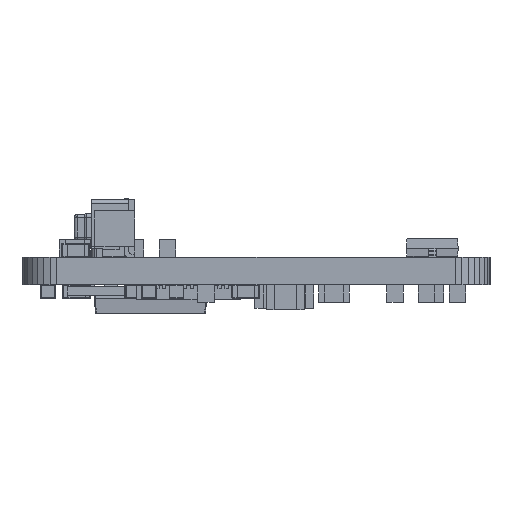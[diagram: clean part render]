
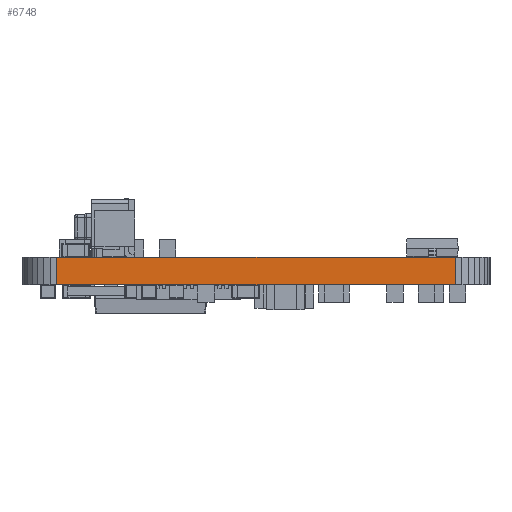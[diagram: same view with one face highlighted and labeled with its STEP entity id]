
A CAD part, left-side view. The second image highlights one B-rep face of the part: STEP entity #6748.
In plain terms, the highlighted planar face has unit normal (-1, 0, 0).
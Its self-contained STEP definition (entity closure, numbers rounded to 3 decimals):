
#223 = PLANE('',#224);
#224 = AXIS2_PLACEMENT_3D('',#225,#226,#227);
#225 = CARTESIAN_POINT('',(24.79,-3.19,1.6));
#226 = DIRECTION('',(0.,0.,-1.));
#227 = DIRECTION('',(-1.,0.,0.));
#277 = PLANE('',#278);
#278 = AXIS2_PLACEMENT_3D('',#279,#280,#281);
#279 = CARTESIAN_POINT('',(24.79,-3.19,0.));
#280 = DIRECTION('',(0.,0.,-1.));
#281 = DIRECTION('',(-1.,0.,0.));
#6640 = PLANE('',#6641);
#6641 = AXIS2_PLACEMENT_3D('',#6642,#6643,#6644);
#6642 = CARTESIAN_POINT('',(-1.931,22.202,0.));
#6643 = DIRECTION('',(0.995,-0.098,0.));
#6644 = DIRECTION('',(-0.098,-0.995,0.));
#6678 = VERTEX_POINT('',#6679);
#6679 = CARTESIAN_POINT('',(-1.97,21.81,1.6));
#6700 = EDGE_CURVE('',#6701,#6678,#6703,.T.);
#6701 = VERTEX_POINT('',#6702);
#6702 = CARTESIAN_POINT('',(-1.97,21.81,0.));
#6703 = SURFACE_CURVE('',#6704,(#6708,#6715),.PCURVE_S1.);
#6704 = LINE('',#6705,#6706);
#6705 = CARTESIAN_POINT('',(-1.97,21.81,0.));
#6706 = VECTOR('',#6707,1.);
#6707 = DIRECTION('',(0.,0.,1.));
#6708 = PCURVE('',#6640,#6709);
#6709 = DEFINITIONAL_REPRESENTATION('',(#6710),#6714);
#6710 = LINE('',#6711,#6712);
#6711 = CARTESIAN_POINT('',(0.394,0.));
#6712 = VECTOR('',#6713,1.);
#6713 = DIRECTION('',(0.,-1.));
#6714 = ( GEOMETRIC_REPRESENTATION_CONTEXT(2) 
PARAMETRIC_REPRESENTATION_CONTEXT() REPRESENTATION_CONTEXT('2D SPACE',''
  ) );
#6715 = PCURVE('',#6716,#6721);
#6716 = PLANE('',#6717);
#6717 = AXIS2_PLACEMENT_3D('',#6718,#6719,#6720);
#6718 = CARTESIAN_POINT('',(-1.97,21.81,0.));
#6719 = DIRECTION('',(1.,0.,0.));
#6720 = DIRECTION('',(0.,-1.,0.));
#6721 = DEFINITIONAL_REPRESENTATION('',(#6722),#6726);
#6722 = LINE('',#6723,#6724);
#6723 = CARTESIAN_POINT('',(0.,0.));
#6724 = VECTOR('',#6725,1.);
#6725 = DIRECTION('',(0.,-1.));
#6726 = ( GEOMETRIC_REPRESENTATION_CONTEXT(2) 
PARAMETRIC_REPRESENTATION_CONTEXT() REPRESENTATION_CONTEXT('2D SPACE',''
  ) );
#6748 = ADVANCED_FACE('',(#6749),#6716,.F.);
#6749 = FACE_BOUND('',#6750,.F.);
#6750 = EDGE_LOOP('',(#6751,#6752,#6775,#6803));
#6751 = ORIENTED_EDGE('',*,*,#6700,.T.);
#6752 = ORIENTED_EDGE('',*,*,#6753,.T.);
#6753 = EDGE_CURVE('',#6678,#6754,#6756,.T.);
#6754 = VERTEX_POINT('',#6755);
#6755 = CARTESIAN_POINT('',(-1.96,-1.19,1.6));
#6756 = SURFACE_CURVE('',#6757,(#6761,#6768),.PCURVE_S1.);
#6757 = LINE('',#6758,#6759);
#6758 = CARTESIAN_POINT('',(-1.97,21.81,1.6));
#6759 = VECTOR('',#6760,1.);
#6760 = DIRECTION('',(0.,-1.,0.));
#6761 = PCURVE('',#6716,#6762);
#6762 = DEFINITIONAL_REPRESENTATION('',(#6763),#6767);
#6763 = LINE('',#6764,#6765);
#6764 = CARTESIAN_POINT('',(0.,-1.6));
#6765 = VECTOR('',#6766,1.);
#6766 = DIRECTION('',(1.,0.));
#6767 = ( GEOMETRIC_REPRESENTATION_CONTEXT(2) 
PARAMETRIC_REPRESENTATION_CONTEXT() REPRESENTATION_CONTEXT('2D SPACE',''
  ) );
#6768 = PCURVE('',#223,#6769);
#6769 = DEFINITIONAL_REPRESENTATION('',(#6770),#6774);
#6770 = LINE('',#6771,#6772);
#6771 = CARTESIAN_POINT('',(26.76,25.));
#6772 = VECTOR('',#6773,1.);
#6773 = DIRECTION('',(0.,-1.));
#6774 = ( GEOMETRIC_REPRESENTATION_CONTEXT(2) 
PARAMETRIC_REPRESENTATION_CONTEXT() REPRESENTATION_CONTEXT('2D SPACE',''
  ) );
#6775 = ORIENTED_EDGE('',*,*,#6776,.F.);
#6776 = EDGE_CURVE('',#6777,#6754,#6779,.T.);
#6777 = VERTEX_POINT('',#6778);
#6778 = CARTESIAN_POINT('',(-1.96,-1.19,0.));
#6779 = SURFACE_CURVE('',#6780,(#6784,#6791),.PCURVE_S1.);
#6780 = LINE('',#6781,#6782);
#6781 = CARTESIAN_POINT('',(-1.96,-1.19,0.));
#6782 = VECTOR('',#6783,1.);
#6783 = DIRECTION('',(0.,0.,1.));
#6784 = PCURVE('',#6716,#6785);
#6785 = DEFINITIONAL_REPRESENTATION('',(#6786),#6790);
#6786 = LINE('',#6787,#6788);
#6787 = CARTESIAN_POINT('',(23.,0.));
#6788 = VECTOR('',#6789,1.);
#6789 = DIRECTION('',(0.,-1.));
#6790 = ( GEOMETRIC_REPRESENTATION_CONTEXT(2) 
PARAMETRIC_REPRESENTATION_CONTEXT() REPRESENTATION_CONTEXT('2D SPACE',''
  ) );
#6791 = PCURVE('',#6792,#6797);
#6792 = PLANE('',#6793);
#6793 = AXIS2_PLACEMENT_3D('',#6794,#6795,#6796);
#6794 = CARTESIAN_POINT('',(-1.96,-1.19,0.));
#6795 = DIRECTION('',(0.997,0.074,0.));
#6796 = DIRECTION('',(0.074,-0.997,0.));
#6797 = DEFINITIONAL_REPRESENTATION('',(#6798),#6802);
#6798 = LINE('',#6799,#6800);
#6799 = CARTESIAN_POINT('',(0.,0.));
#6800 = VECTOR('',#6801,1.);
#6801 = DIRECTION('',(0.,-1.));
#6802 = ( GEOMETRIC_REPRESENTATION_CONTEXT(2) 
PARAMETRIC_REPRESENTATION_CONTEXT() REPRESENTATION_CONTEXT('2D SPACE',''
  ) );
#6803 = ORIENTED_EDGE('',*,*,#6804,.F.);
#6804 = EDGE_CURVE('',#6701,#6777,#6805,.T.);
#6805 = SURFACE_CURVE('',#6806,(#6810,#6817),.PCURVE_S1.);
#6806 = LINE('',#6807,#6808);
#6807 = CARTESIAN_POINT('',(-1.97,21.81,0.));
#6808 = VECTOR('',#6809,1.);
#6809 = DIRECTION('',(0.,-1.,0.));
#6810 = PCURVE('',#6716,#6811);
#6811 = DEFINITIONAL_REPRESENTATION('',(#6812),#6816);
#6812 = LINE('',#6813,#6814);
#6813 = CARTESIAN_POINT('',(0.,0.));
#6814 = VECTOR('',#6815,1.);
#6815 = DIRECTION('',(1.,0.));
#6816 = ( GEOMETRIC_REPRESENTATION_CONTEXT(2) 
PARAMETRIC_REPRESENTATION_CONTEXT() REPRESENTATION_CONTEXT('2D SPACE',''
  ) );
#6817 = PCURVE('',#277,#6818);
#6818 = DEFINITIONAL_REPRESENTATION('',(#6819),#6823);
#6819 = LINE('',#6820,#6821);
#6820 = CARTESIAN_POINT('',(26.76,25.));
#6821 = VECTOR('',#6822,1.);
#6822 = DIRECTION('',(0.,-1.));
#6823 = ( GEOMETRIC_REPRESENTATION_CONTEXT(2) 
PARAMETRIC_REPRESENTATION_CONTEXT() REPRESENTATION_CONTEXT('2D SPACE',''
  ) );
